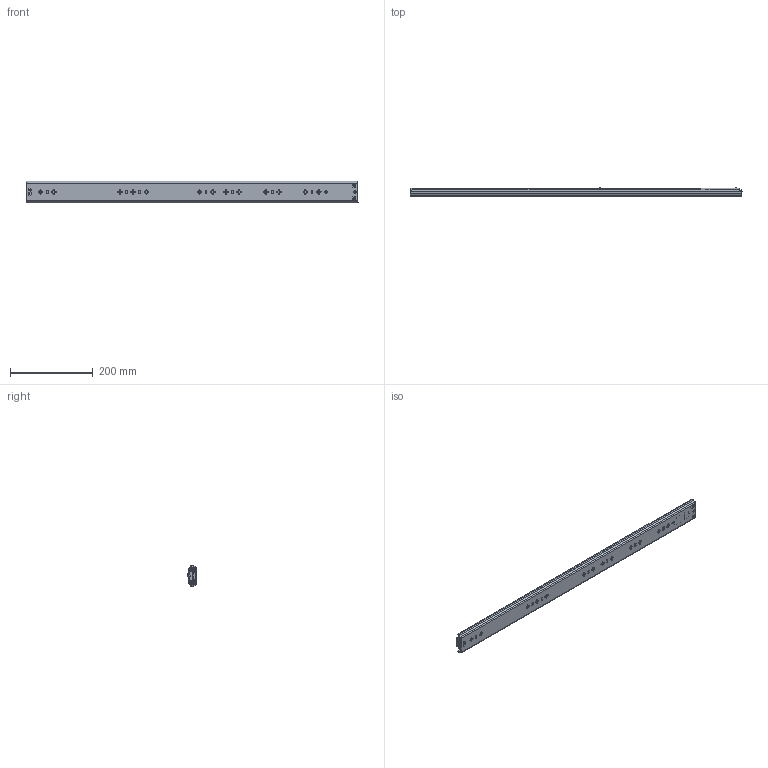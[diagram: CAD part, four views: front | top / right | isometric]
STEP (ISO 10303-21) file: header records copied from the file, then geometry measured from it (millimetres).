
FILE_DESCRIPTION((''),'2;1');
FILE_NAME('1053-HD-800_ASM','2023-11-18T',('jishu015'),(''),'PRO/ENGINEER BY PARAMETRIC TECHNOLOGY CORPORATION, 2010280','PRO/ENGINEER BY PARAMETRIC TECHNOLOGY CORPORATION, 2010280','');
FILE_SCHEMA(('CONFIG_CONTROL_DESIGN'));
Products named in the file (25): 1053-02-18WAIKE________________; MANIFOLD_SOLID_BREP_51_________; MANIFOLD_SOLID_BREP_52_________; MANIFOLD_SOLID_BREP_53_________; ADMI29141B9BC7PD_ASM__________ASM; ASM0001__________ASM; 53_ASM__________ASM; 1053-02-18XTPJG-DAZHUJIA2_; 1053-02-18XTPJG-5-6GANZHU12_; ZHONGGUIJIAO-11___________; 1053-02-18XTPJG-DAZHUJIA12__ASM; 1053-02-18WAIKE_________________ASM; 1053-02-18ZHONGGUI11__; 53ZHIDIJIAO________________; 3X6-MAODING_________; 1053-02-18ZHONGGUI11___ASM; 1053XIAOZHUJIA-14GE11___; 53-5-6GANZHU________________; 1053XIAOZHUJIA-14GE11____ASM; 1053-02-18NEIGUI12; 53BACHA_______________; XIAOMAODING_________; 3X4MAODING_________; 1053-02-18NEIGUI12_ASM; 1053-HD-800_ASM
Assembly tree (123 placements, depth 6):
  1053-HD-800_ASM
    1053-02-18WAIKE_________________ASM
      1053-02-18WAIKE________________
      53_ASM__________ASM
        ASM0001__________ASM
          ADMI29141B9BC7PD_ASM__________ASM
            MANIFOLD_SOLID_BREP_51_________
            MANIFOLD_SOLID_BREP_52_________
            MANIFOLD_SOLID_BREP_53_________
      1053-02-18XTPJG-DAZHUJIA12__ASM
        1053-02-18XTPJG-DAZHUJIA2_
        1053-02-18XTPJG-5-6GANZHU12_  x44
        ZHONGGUIJIAO-11___________  x2
    1053-02-18ZHONGGUI11___ASM
      1053-02-18ZHONGGUI11__
      53ZHIDIJIAO________________
      3X6-MAODING_________
    1053XIAOZHUJIA-14GE11____ASM
      1053XIAOZHUJIA-14GE11___
      53-5-6GANZHU________________  x56
    1053-02-18NEIGUI12_ASM
      1053-02-18NEIGUI12
      53BACHA_______________
      XIAOMAODING_________
      3X4MAODING_________
Bounding box: 802.1 x 19.75 x 53 mm (x, y, z)
Volume: 303659.4 mm3; surface area: 374780.2 mm2
Topology: 115 solids, 115 shells, 4268 faces, 11933 edges, 7472 vertices
Faces by surface type: plane 1865, cylinder 1736, bspline 232, sphere 230, cone 143, torus 60, extrusion 2
Entity records: 150842 total; most frequent: CARTESIAN_POINT 47237, ORIENTED_EDGE 22188, DIRECTION 20875, EDGE_CURVE 11094, VERTEX_POINT 7150, AXIS2_PLACEMENT_3D 7119, VECTOR 6637, LINE 6635
